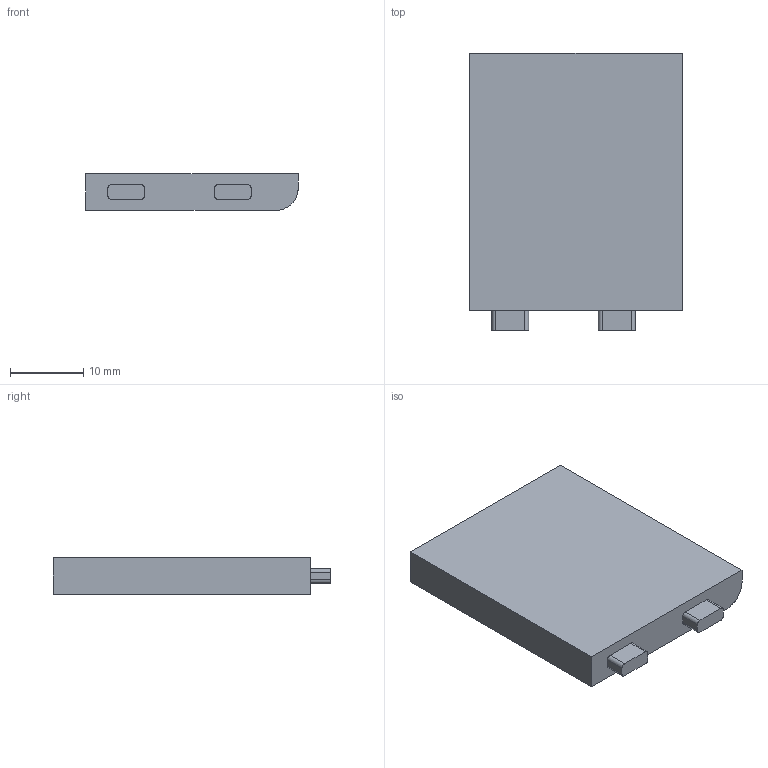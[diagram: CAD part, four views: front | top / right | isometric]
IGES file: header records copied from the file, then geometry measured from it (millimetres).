
Start section: SolidWorks IGES file using analytic representation for surfaces
Global section: file name: E:\Studium\I4.0\fts\Kleine Bauteile\wand-link-unter.IGS; native system: SolidWorks 2013; preprocessor: SolidWorks 2013; author: Ludwig Jiawei Luo; date: 180202.213559; units: millimetre
Bounding box: 28.9 x 37.8 x 5 mm (x, y, z)
Surface area: 2722.6 mm2 (no closed solid volume)
Topology: 0 solids, 0 shells, 42 faces, 308 edges, 308 vertices
Faces by surface type: bspline 25, revolution 17
